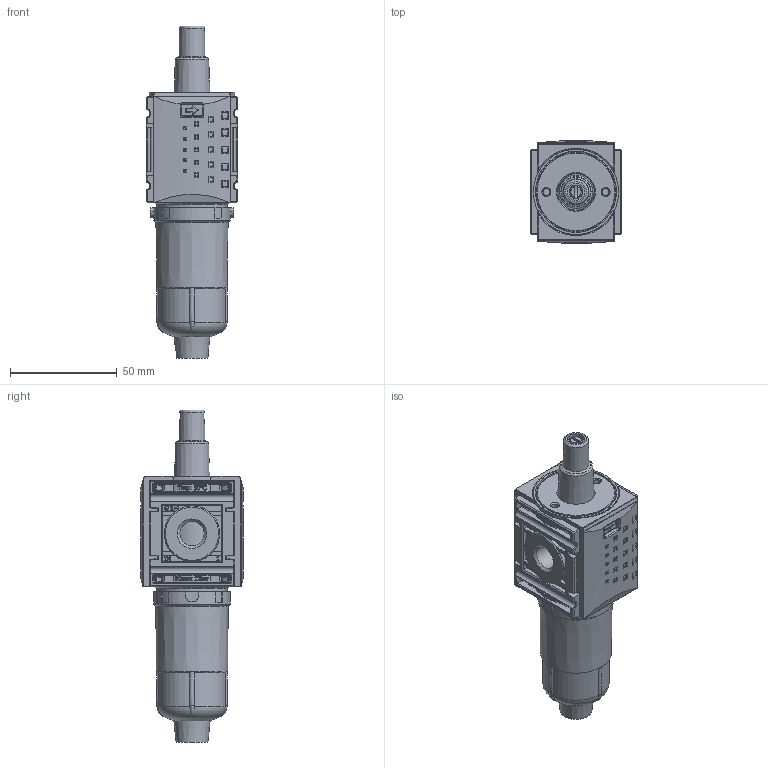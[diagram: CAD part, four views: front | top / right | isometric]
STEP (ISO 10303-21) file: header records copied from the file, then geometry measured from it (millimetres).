
FILE_DESCRIPTION(/* description */ (''),/* implementation_level */ '2;1');
FILE_NAME(/* name */ 'K:\ZEICHNG\Tristan\Steps Björn\035667; KLUB-014.stp',/* time_stamp */ '2022-02-04T11:23:23+01:00',/* author */ ('Tristan.Beckmann'),/* organization */ (''),/* preprocessor_version */ 'ST-DEVELOPER v18',/* originating_system */ 'Autodesk Inventor 2020',/* authorisation */ '');
FILE_SCHEMA (('AUTOMOTIVE_DESIGN { 1 0 10303 214 3 1 1 }'));
Bounding box: 43 x 48.16 x 155.7 mm (x, y, z)
Volume: 135407.6 mm3; surface area: 41431.5 mm2
Topology: 1 solids, 7 shells, 2885 faces, 7749 edges, 4949 vertices
Faces by surface type: plane 1193, cylinder 760, bspline 565, torus 264, sphere 65, cone 38
Full cylindrical faces by diameter (mm): 0.3 x14, 2.4 x4, 3.2 x6, 5.9 x1, 6 x2, 6.25 x1, 6.3 x1, 8 x1, 11.445 x2, 17 x1, 17.2 x1, 19.8 x1, 20 x1, 22 x1, 23.5 x1, 26 x1, 33.3 x1, 36 x2, 37 x1, 38 x1, 40 x1
Entity records: 145620 total; most frequent: CARTESIAN_POINT 74749, ORIENTED_EDGE 15354, DIRECTION 12278, EDGE_CURVE 7677, VERTEX_POINT 4949, AXIS2_PLACEMENT_3D 4188, LINE 3902, VECTOR 3902
